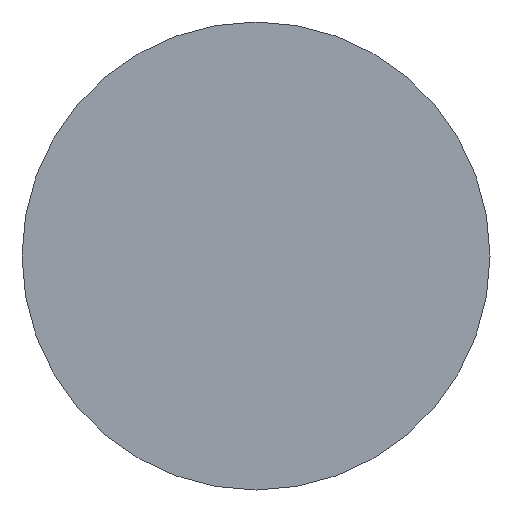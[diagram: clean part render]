
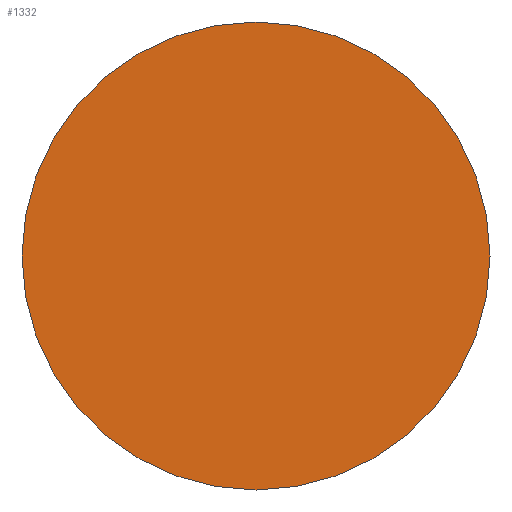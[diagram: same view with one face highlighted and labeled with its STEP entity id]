
A CAD part, left-side view. The second image highlights one B-rep face of the part: STEP entity #1332.
In plain terms, the highlighted planar face has unit normal (-1, 0, 0).
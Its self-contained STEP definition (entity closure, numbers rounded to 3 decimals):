
#132=FACE_OUTER_BOUND('',#192,.T.);
#192=EDGE_LOOP('',(#865,#866));
#253=CIRCLE('',#1415,2.045);
#254=CIRCLE('',#1416,2.045);
#457=VERTEX_POINT('',#2241);
#458=VERTEX_POINT('',#2242);
#632=EDGE_CURVE('',#457,#458,#253,.T.);
#633=EDGE_CURVE('',#458,#457,#254,.T.);
#865=ORIENTED_EDGE('',*,*,#632,.F.);
#866=ORIENTED_EDGE('',*,*,#633,.F.);
#1330=PLANE('',#1414);
#1332=ADVANCED_FACE('',(#132),#1330,.T.);
#1414=AXIS2_PLACEMENT_3D('',#2240,#1683,#1684);
#1415=AXIS2_PLACEMENT_3D('',#2243,#1685,#1686);
#1416=AXIS2_PLACEMENT_3D('',#2244,#1687,#1688);
#1683=DIRECTION('center_axis',(-1.,0.,0.));
#1684=DIRECTION('ref_axis',(0.,0.,1.));
#1685=DIRECTION('center_axis',(1.,0.,0.));
#1686=DIRECTION('ref_axis',(0.,1.,0.));
#1687=DIRECTION('center_axis',(1.,0.,0.));
#1688=DIRECTION('ref_axis',(0.,1.,0.));
#2240=CARTESIAN_POINT('Origin',(0.,1.022,0.));
#2241=CARTESIAN_POINT('',(0.,2.045,0.));
#2242=CARTESIAN_POINT('',(0.,-2.045,0.));
#2243=CARTESIAN_POINT('Origin',(0.,0.,0.));
#2244=CARTESIAN_POINT('Origin',(0.,0.,0.));
